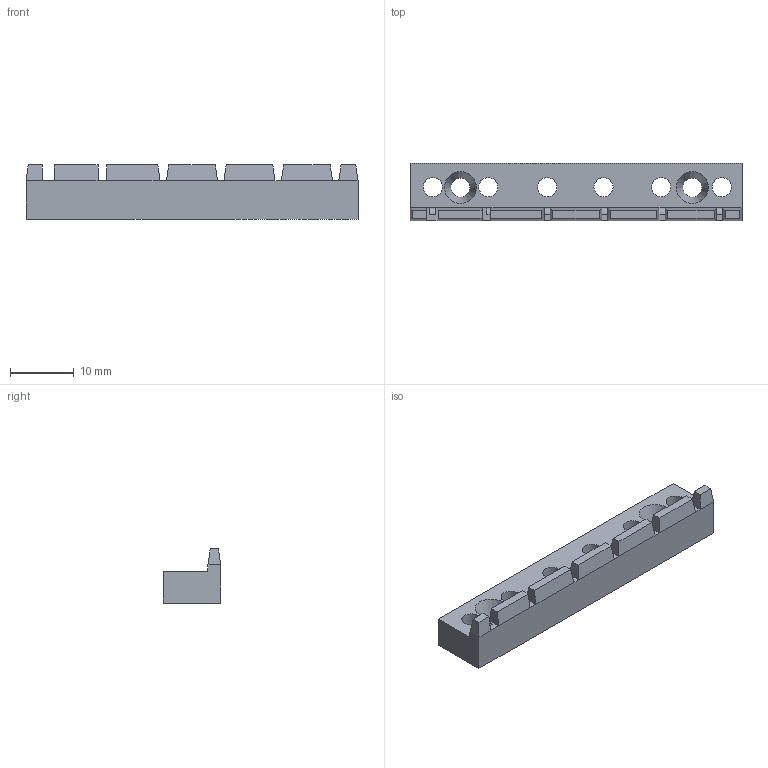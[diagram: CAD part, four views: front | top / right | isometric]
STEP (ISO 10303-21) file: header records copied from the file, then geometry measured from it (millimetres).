
FILE_DESCRIPTION(('STEP AP203'), '1');
FILE_NAME('ïîðîæåê âåðõíèé', '', ('UNSPECIFIED'), ('UNSPECIFIED'), 'ASCON STEP Converter 1.3', 'ASCON Math Kernel', '');
FILE_SCHEMA(('CONFIG_CONTROL_DESIGN'));
Length unit declared in the file: millimetre
Bounding box: 52 x 9 x 8.5 mm (x, y, z)
Volume: 2304.6 mm3; surface area: 2155.5 mm2
Topology: 1 solids, 1 shells, 83 faces, 192 edges, 111 vertices
Faces by surface type: plane 67, cylinder 14, cone 2
Full cylindrical faces by diameter (mm): 3 x8
Entity records: 2958 total; most frequent: DIRECTION 380, CARTESIAN_POINT 377, ORIENTED_EDGE 364, EDGE_CURVE 182, LINE 152, VECTOR 152, AXIS2_PLACEMENT_3D 114, VERTEX_POINT 111
